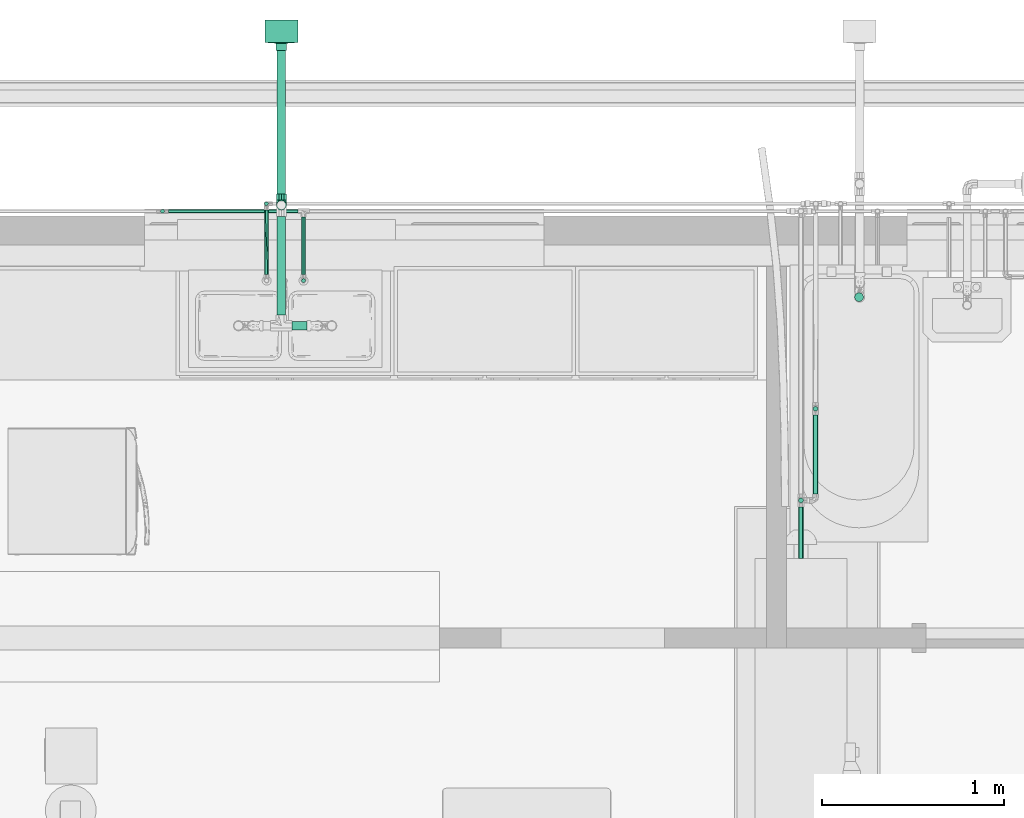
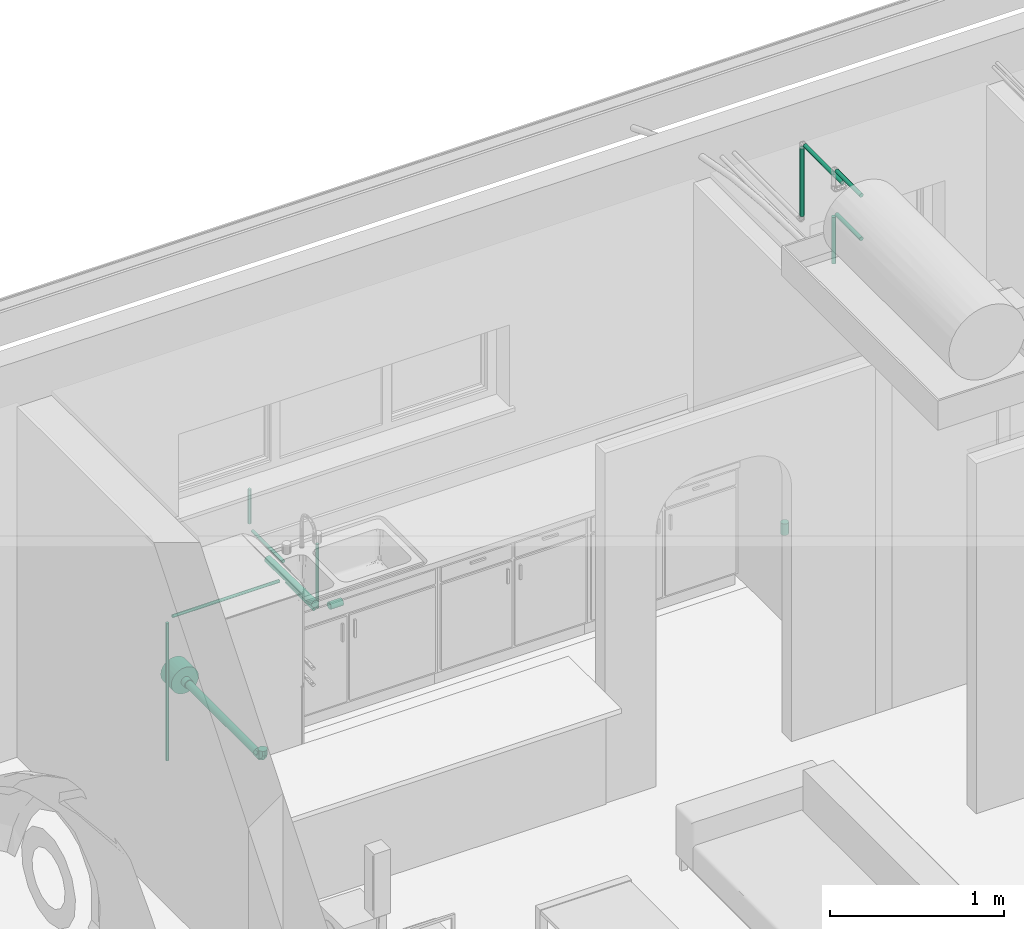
# One storey, part 18 of 41: 15 flow segments, 2 flow fittings.
"""IFC2X3 building model written with IfcOpenShell, lengths in millimetres."""

import ifcopenshell
import ifcopenshell.guid

model = None  # the IFC model being written
_history = None  # IfcOwnerHistory: only IFC2X3 demands one
_inside = {}  # id of a spatial element -> (the spatial element, [elements in it])
_under = {}  # id of a project, library or spatial element -> (it, [spatial elements below it])
_declared = {}  # id of a project -> (the project, [libraries it declares])
_typed = {}  # id of a type object -> (the type object, [elements of that type])
_made_of = {}  # id of a material, layer set ... -> (it, [elements and type objects made of it])


def new_model(schema):
    """Start an empty IFC model of exactly this schema.

    Asked for "IFC4X3", IfcOpenShell would pick the latest addendum, in which some entities
    have other attributes; the version numbers below select the first issue.
    IFC2X3 requires an IfcOwnerHistory on every rooted entity: one is made here for all.
    """
    global model, _history
    if schema == "IFC4X3":
        model = ifcopenshell.file(schema_version=(4, 3, 0, 0))
    else:
        model = ifcopenshell.file(schema=schema)
    _inside.clear()
    _under.clear()
    _declared.clear()
    _typed.clear()
    _made_of.clear()
    _history = None
    if model.schema == "IFC2X3":
        org = make("IfcOrganization", Name="unknown")
        user = make(
            "IfcPersonAndOrganization",
            ThePerson=make("IfcPerson", FamilyName="unknown"),
            TheOrganization=org,
        )
        app = make(
            "IfcApplication",
            ApplicationDeveloper=org,
            Version="unknown",
            ApplicationFullName="unknown",
            ApplicationIdentifier="unknown",
        )
        _history = make(
            "IfcOwnerHistory",
            OwningUser=user,
            OwningApplication=app,
            ChangeAction="ADDED",
            CreationDate=0,
        )
    return model


def make(cls, **values):
    """One entity of the class cls with the attributes given. An attribute that is None is left unset."""
    return model.create_entity(
        cls, **{name: value for name, value in values.items() if value is not None}
    )


def entity(cls, *values):
    """Any entity or typed value of the class cls, its attributes in the order of the schema. None: left unset."""
    e = model.create_entity(cls)
    for i, value in enumerate(values):
        if value is not None:
            e[i] = value
    return e


def rooted(cls, **values):
    """An entity with a GlobalId (a new one), such as an element, a storey or a relation."""
    return make(cls, GlobalId=ifcopenshell.guid.new(), OwnerHistory=_history, **values)


def si_unit(unit_type, name, prefix=None):
    """IfcSIUnit, for example si_unit("LENGTHUNIT", "METRE", prefix="MILLI")."""
    return make("IfcSIUnit", UnitType=unit_type, Prefix=prefix, Name=name)


def converted_unit(unit_type, name, factor, base, dimensions=None, offset=None):
    """IfcConversionBasedUnit, such as the inch: factor (a typed value) times the base unit."""
    return make(
        "IfcConversionBasedUnit"
        if offset is None
        else "IfcConversionBasedUnitWithOffset",
        ConversionOffset=offset,
        Dimensions=None
        if dimensions is None
        else entity("IfcDimensionalExponents", *dimensions),
        UnitType=unit_type,
        Name=name,
        ConversionFactor=make(
            "IfcMeasureWithUnit", ValueComponent=factor, UnitComponent=base
        ),
    )


def derived_unit(unit_type, elements):
    """IfcDerivedUnit: a product of units, each with its exponent."""
    return make(
        "IfcDerivedUnit",
        Elements=[
            make("IfcDerivedUnitElement", Unit=unit, Exponent=power)
            for unit, power in elements
        ],
        UnitType=unit_type,
    )


def assignment(units):
    """IfcUnitAssignment: the units of a project."""
    return None if units is None else make("IfcUnitAssignment", Units=units)


def point(xyz):
    """IfcCartesianPoint."""
    return None if xyz is None else make("IfcCartesianPoint", Coordinates=xyz)


def direction(xyz):
    """IfcDirection."""
    return None if xyz is None else make("IfcDirection", DirectionRatios=xyz)


def frame(location, z_axis=None, x_axis=None):
    """IfcAxis2Placement3D, a coordinate frame: its origin and axes. An axis left out is left unset."""
    return make(
        "IfcAxis2Placement3D",
        Location=point(location),
        Axis=direction(z_axis),
        RefDirection=direction(x_axis),
    )


def frame_2d(location, x_axis=None):
    """IfcAxis2Placement2D, a coordinate frame in the plane: its origin and x axis."""
    return make(
        "IfcAxis2Placement2D", Location=point(location), RefDirection=direction(x_axis)
    )


def origin():
    """The frame at (0, 0, 0) with its axes left unset."""
    return frame((0.0, 0.0, 0.0))


def origin_2d_with_axis():
    """The frame at (0, 0) in the plane with the x axis (1, 0) written out."""
    return frame_2d((0.0, 0.0), x_axis=(1.0, 0.0))


def place(relative_to, where):
    """IfcLocalPlacement: puts the frame where relative to a parent placement (None: the world)."""
    return make(
        "IfcLocalPlacement", PlacementRelTo=relative_to, RelativePlacement=where
    )


def context(
    kind, dimensions, precision=None, world=None, true_north=None, identifier=None
):
    """IfcGeometricRepresentationContext, for example the 3D "Model" context."""
    return make(
        "IfcGeometricRepresentationContext",
        ContextIdentifier=identifier,
        ContextType=kind,
        CoordinateSpaceDimension=dimensions,
        Precision=precision,
        WorldCoordinateSystem=world,
        TrueNorth=true_north,
    )


def subcontext(parent, identifier, kind, view, scale=None):
    """IfcGeometricRepresentationSubContext, for example "Body" below "Model"."""
    return make(
        "IfcGeometricRepresentationSubContext",
        ContextIdentifier=identifier,
        ContextType=kind,
        ParentContext=parent,
        TargetScale=scale,
        TargetView=view,
    )


def project(units=None, contexts=None):
    """IfcProject with its units and contexts."""
    return rooted(
        "IfcProject",
        Name="project",
        RepresentationContexts=contexts,
        UnitsInContext=assignment(units),
    )


def spatial(cls, under=None, at=None, **own):
    """A site, building, storey or space (cls), placed at a placement, below another one or the project."""
    s = rooted(cls, ObjectPlacement=at, **own)
    if under is not None:
        _under.setdefault(under.id(), (under, []))[1].append(s)
    return s


def profile(cls, at=None, kind="AREA", **sizes):
    """A parametric profile (cls). Its sizes go by their IFC names, for example OverallWidth=200.0."""
    return make(cls, ProfileType=kind, Position=at, **sizes)


def circle(**sizes):
    """IfcCircleProfileDef."""
    return profile("IfcCircleProfileDef", **sizes)


def extrude(swept, where, along, depth):
    """IfcExtrudedAreaSolid: the profile swept, set in the frame where, extruded along a direction by depth."""
    return make(
        "IfcExtrudedAreaSolid",
        SweptArea=swept,
        Position=where,
        ExtrudedDirection=direction(along),
        Depth=depth,
    )


def faces_of(points, faces, orient=None, outer=None):
    """IfcFace entities. A face is a list of loops; a loop is a list of indices into points, from 0.

    orient and outer hold one flag for each loop. By default every Orientation is true, the
    first loop of a face is its IfcFaceOuterBound and the others are IfcFaceBound.
    """
    made = []
    for i, loops in enumerate(faces):
        bounds = []
        for j, loop in enumerate(loops):
            is_outer = j == 0 if outer is None else outer[i][j]
            bounds.append(
                make(
                    "IfcFaceOuterBound" if is_outer else "IfcFaceBound",
                    Bound=make("IfcPolyLoop", Polygon=[points[k] for k in loop]),
                    Orientation=True if orient is None else orient[i][j],
                )
            )
        made.append(make("IfcFace", Bounds=bounds))
    return made


def faceted_brep(points, faces, orient=None, outer=None, voids=None):
    """IfcFacetedBrep: a solid bounded by flat faces; with voids (closed shells), ...WithVoids."""
    shared = [point(p) for p in points]
    hull = make("IfcClosedShell", CfsFaces=faces_of(shared, faces, orient, outer))
    if voids is None:
        return make("IfcFacetedBrep", Outer=hull)
    return make(
        "IfcFacetedBrepWithVoids",
        Outer=hull,
        Voids=[
            make(cls, CfsFaces=faces_of(shared, fs, o, b)) for cls, fs, o, b in voids
        ],
    )


def shape(context_of_items, identifier, shape_type, items):
    """IfcShapeRepresentation: the items that make up one representation, for example the "Body"."""
    return make(
        "IfcShapeRepresentation",
        ContextOfItems=context_of_items,
        RepresentationIdentifier=identifier,
        RepresentationType=shape_type,
        Items=items,
    )


def source(mapping_origin, context_of_items, identifier, shape_type, items):
    """IfcRepresentationMap: a shape defined once, which mapped items show again and again."""
    return make(
        "IfcRepresentationMap",
        MappingOrigin=mapping_origin,
        MappedRepresentation=shape(context_of_items, identifier, shape_type, items),
    )


def transform(
    local_origin,
    x_axis=None,
    y_axis=None,
    z_axis=None,
    scale=None,
    scale2=None,
    scale3=None,
    uniform=True,
):
    """IfcCartesianTransformationOperator3D, or its non-uniform kind. x_axis, y_axis, z_axis: its Axis1, 2, 3."""
    if uniform:
        return make(
            "IfcCartesianTransformationOperator3D",
            Axis1=direction(x_axis),
            Axis2=direction(y_axis),
            LocalOrigin=point(local_origin),
            Scale=scale,
            Axis3=direction(z_axis),
        )
    return make(
        "IfcCartesianTransformationOperator3DnonUniform",
        Axis1=direction(x_axis),
        Axis2=direction(y_axis),
        LocalOrigin=point(local_origin),
        Scale=scale,
        Axis3=direction(z_axis),
        Scale2=scale2,
        Scale3=scale3,
    )


def mapped(mapping_source, mapping_target):
    """IfcMappedItem: shows the shape of a source again, moved by a transform."""
    return make(
        "IfcMappedItem", MappingSource=mapping_source, MappingTarget=mapping_target
    )


def made_of(thing, what):
    """Note that an element or type object is made of a material, layer set ...; save() writes the relation."""
    if what is not None:
        _made_of.setdefault(what.id(), (what, []))[1].append(thing)
    return thing


def type_object(cls, material=None, **own):
    """A type object (cls), such as IfcWallType, which elements share."""
    return made_of(rooted(cls, **own), material)


def type_shapes(of_type, sources):
    """Give a type object the sources (RepresentationMaps) that its elements show as mapped items."""
    of_type.RepresentationMaps = sources


def element(
    cls,
    number,
    at=None,
    inside=None,
    cuts=None,
    type_object=None,
    material=None,
    context=None,
    identifier="Body",
    shape_type=None,
    held_by="IfcProductDefinitionShape",
    body=None,
    shapes=None,
    **own,
):
    """One element of the class cls, such as IfcWall. Its Tag is "e" and its number.

    at: its placement. inside: the storey or other place that contains it. cuts: it is an
    opening in that element (IfcRelVoidsElement). A single representation is given by context,
    identifier, shape_type and body (its items); several are given by shapes. held_by: the class
    of the entity that holds the representations. save() writes the other relations.
    """
    e = rooted(cls, Tag="e%d" % number, ObjectPlacement=at, **own)
    if body is not None:
        shapes = [shape(context, identifier, shape_type, body)]
    if shapes is not None:
        e.Representation = make(held_by, Representations=shapes)
    if inside is not None:
        _inside.setdefault(inside.id(), (inside, []))[1].append(e)
    if cuts is not None:
        rooted(
            "IfcRelVoidsElement", RelatingBuildingElement=cuts, RelatedOpeningElement=e
        )
    if type_object is not None:
        _typed.setdefault(type_object.id(), (type_object, []))[1].append(e)
    return made_of(e, material)


def aggregate(whole, parts):
    """IfcRelAggregates: a whole, such as a stair, and the parts it consists of."""
    return rooted("IfcRelAggregates", RelatingObject=whole, RelatedObjects=parts)


def save(model, path):
    """Write the relations noted so far, then the file.

    IfcRelAggregates (storeys below a building ...), IfcRelContainedInSpatialStructure (elements
    in a storey), IfcRelDefinesByType, IfcRelAssociatesMaterial and IfcRelDeclares: one each for
    every whole, place, type object, material and project.
    """
    for whole, parts in _under.values():
        aggregate(whole, parts)
    for where, things in _inside.values():
        rooted(
            "IfcRelContainedInSpatialStructure",
            RelatedElements=things,
            RelatingStructure=where,
        )
    for kind, things in _typed.values():
        rooted("IfcRelDefinesByType", RelatedObjects=things, RelatingType=kind)
    for what, things in _made_of.values():
        rooted("IfcRelAssociatesMaterial", RelatedObjects=things, RelatingMaterial=what)
    for by, libraries in _declared.values():
        rooted("IfcRelDeclares", RelatingContext=by, RelatedDefinitions=libraries)
    model.write(path)


model = new_model("IFC2X3")

# Units and contexts
model_context = context("Model", 3, precision=0.01, world=origin(), true_north=direction((6.12303176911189e-17, 1.0)))
body_context = subcontext(model_context, "Body", "Model", "MODEL_VIEW")
ifc_project = project(units=[si_unit("LENGTHUNIT", "METRE", prefix="MILLI"), si_unit("AREAUNIT", "SQUARE_METRE"), si_unit("VOLUMEUNIT", "CUBIC_METRE"), converted_unit("PLANEANGLEUNIT", "DEGREE", entity("IfcRatioMeasure", 0.0174532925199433), si_unit("PLANEANGLEUNIT", "RADIAN"), dimensions=[0, 0, 0, 0, 0, 0, 0]), si_unit("MASSUNIT", "GRAM", prefix="KILO"), derived_unit("MASSDENSITYUNIT", [(si_unit("MASSUNIT", "GRAM", prefix="KILO"), 1), (si_unit("LENGTHUNIT", "METRE"), -3)]), si_unit("TIMEUNIT", "SECOND"), si_unit("FREQUENCYUNIT", "HERTZ"), si_unit("THERMODYNAMICTEMPERATUREUNIT", "DEGREE_CELSIUS"), derived_unit("THERMALTRANSMITTANCEUNIT", [(si_unit("MASSUNIT", "GRAM", prefix="KILO"), 1), (si_unit("THERMODYNAMICTEMPERATUREUNIT", "KELVIN"), -1), (si_unit("TIMEUNIT", "SECOND"), -3)]), derived_unit("VOLUMETRICFLOWRATEUNIT", [(si_unit("LENGTHUNIT", "METRE"), 3), (si_unit("TIMEUNIT", "SECOND"), -1)]), si_unit("ELECTRICCURRENTUNIT", "AMPERE"), si_unit("ELECTRICVOLTAGEUNIT", "VOLT"), si_unit("POWERUNIT", "WATT"), si_unit("FORCEUNIT", "NEWTON", prefix="KILO"), si_unit("ILLUMINANCEUNIT", "LUX"), si_unit("LUMINOUSFLUXUNIT", "LUMEN"), si_unit("LUMINOUSINTENSITYUNIT", "CANDELA"), derived_unit("USERDEFINED", [(si_unit("MASSUNIT", "GRAM", prefix="KILO"), -1), (si_unit("LENGTHUNIT", "METRE"), -2), (si_unit("TIMEUNIT", "SECOND"), 3), (si_unit("LUMINOUSFLUXUNIT", "LUMEN"), 1)]), derived_unit("LINEARVELOCITYUNIT", [(si_unit("LENGTHUNIT", "METRE"), 1), (si_unit("TIMEUNIT", "SECOND"), -1)]), si_unit("PRESSUREUNIT", "PASCAL"), derived_unit("USERDEFINED", [(si_unit("LENGTHUNIT", "METRE"), -2), (si_unit("MASSUNIT", "GRAM", prefix="KILO"), 1), (si_unit("TIMEUNIT", "SECOND"), -2)])], contexts=[model_context])

# Site, building, storey
site_placement = place(None, origin())
site = spatial("IfcSite", under=ifc_project, at=site_placement, Name="Surface", CompositionType="ELEMENT")
building_placement = place(site_placement, origin())
building = spatial("IfcBuilding", under=site, at=building_placement, CompositionType="ELEMENT")
storey_placement = place(building_placement, frame((0.0, 0.0, 300.0)))
storey = spatial("IfcBuildingStorey", under=building, at=storey_placement, Name="F.F.L", CompositionType="ELEMENT", Elevation=300.0)

# Flow segments
pipe_segment_type = type_object("IfcPipeSegmentType", Name="Pipe Types:PVC80", PredefinedType="NOTDEFINED")
flow_segment_1_placement = place(storey_placement, origin())
element("IfcFlowSegment", 1, at=flow_segment_1_placement, inside=storey, type_object=pipe_segment_type, Name="Pipe Types:PVC80", ObjectType="Pipe Types:PVC80", context=body_context, shape_type="SweptSolid", body=[
    extrude(circle(Radius=24.13, at=origin_2d_with_axis()), frame((-4076.87517007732, 10378.0400891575, -76.464466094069)), (0.0, 0.0, 1.0), 80.0),
])
flow_segment_2_placement = place(storey_placement, origin())
element("IfcFlowSegment", 2, at=flow_segment_2_placement, inside=storey, type_object=pipe_segment_type, Name="Pipe Types:PVC80", ObjectType="Pipe Types:PVC80", context=body_context, shape_type="SweptSolid", body=[
    extrude(circle(Radius=13.335, at=origin_2d_with_axis()), frame((-4396.87517007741, 8938.84008915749, 2978.8), z_axis=(0.0, 1.0, 0.0), x_axis=(1.0, 0.0, 0.0)), (0.0, 0.0, 1.0), 284.67494673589),
])
flow_segment_3_placement = place(storey_placement, origin())
element("IfcFlowSegment", 3, at=flow_segment_3_placement, inside=storey, type_object=pipe_segment_type, Name="Pipe Types:PVC80", ObjectType="Pipe Types:PVC80", context=body_context, shape_type="SweptSolid", body=[
    extrude(circle(Radius=13.335, at=origin_2d_with_axis()), frame((-4396.87517007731, 8938.84008915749, 3283.59999999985), z_axis=(0.0, 0.99999999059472, 0.000137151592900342), x_axis=(1.0, 0.0, 0.0)), (0.0, 0.0, 1.0), 284.672432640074),
])
flow_segment_4_placement = place(storey_placement, origin())
element("IfcFlowSegment", 4, at=flow_segment_4_placement, inside=storey, type_object=pipe_segment_type, Name="Pipe Types:PVC80", ObjectType="Pipe Types:PVC80", context=body_context, shape_type="SweptSolid", body=[
    extrude(circle(Radius=10.668, at=origin_2d_with_axis()), frame((-7135.27517007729, 10468.6900891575, 416.937550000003)), (0.0, 0.0, 1.0), 448.062449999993),
])
flow_segment_5_placement = place(storey_placement, origin())
element("IfcFlowSegment", 5, at=flow_segment_5_placement, inside=storey, type_object=pipe_segment_type, Name="Pipe Types:PVC80", ObjectType="Pipe Types:PVC80", context=body_context, shape_type="SweptSolid", body=[
    extrude(circle(Radius=10.668, at=origin_2d_with_axis()), frame((-7135.27517007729, 10502.4276391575, 383.200000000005), z_axis=(0.0, 1.0, 0.0), x_axis=(1.0, 0.0, 0.0)), (0.0, 0.0, 1.0), 316.662449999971),
])
flow_segment_6_placement = place(storey_placement, origin())
element("IfcFlowSegment", 6, at=flow_segment_6_placement, inside=storey, type_object=pipe_segment_type, Name="Pipe Types:PVC80", ObjectType="Pipe Types:PVC80", context=body_context, shape_type="SweptSolid", body=[
    extrude(circle(Radius=10.668, at=frame_2d((3.24860138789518e-11, 0.0), x_axis=(1.0, 0.0))), frame((-7878.00431599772, 10850.8400891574, 383.200000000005), z_axis=(1.0, 0.0, 0.0), x_axis=(0.0, 1.0, 0.0)), (0.0, 0.0, 1.0), 710.97914592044),
])
flow_segment_7_placement = place(storey_placement, origin())
element("IfcFlowSegment", 7, at=flow_segment_7_placement, inside=storey, type_object=pipe_segment_type, Name="Pipe Types:PVC80", ObjectType="Pipe Types:PVC80", context=body_context, shape_type="SweptSolid", body=[
    extrude(circle(Radius=10.668, at=frame_2d((-1.08286712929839e-12, 0.0), x_axis=(1.0, 0.0))), frame((-7339.93915842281, 10892.2567375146, 824.137549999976), z_axis=(0.0, 0.0, 1.0), x_axis=(-1.0, 0.0, 0.0)), (0.0, 0.0, 1.0), 242.124900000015),
])
flow_segment_8_placement = place(storey_placement, origin())
element("IfcFlowSegment", 8, at=flow_segment_8_placement, inside=storey, type_object=pipe_segment_type, Name="Pipe Types:PVC80", ObjectType="Pipe Types:PVC80", context=body_context, shape_type="SweptSolid", body=[
    extrude(circle(Radius=24.13, at=origin_2d_with_axis()), frame((-7198.67072415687, 10220.2400891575, 601.606074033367), z_axis=(1.0, 0.0, 0.0), x_axis=(0.0, -1.0, 0.0)), (0.0, 0.0, 1.0), 83.5957540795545),
])
flow_segment_9_placement = place(storey_placement, origin())
element("IfcFlowSegment", 9, at=flow_segment_9_placement, inside=storey, type_object=pipe_segment_type, Name="Pipe Types:PVC80", ObjectType="Pipe Types:PVC80", context=body_context, shape_type="SweptSolid", body=[
    extrude(circle(Radius=24.13, at=origin_2d_with_axis()), frame((-7257.42092415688, 10822.2648359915, 584.889870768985), z_axis=(0.0, -0.999621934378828, 0.0274952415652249), x_axis=(1.0, 0.0, 0.0)), (0.0, 0.0, 1.0), 543.506767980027),
])
flow_segment_10_placement = place(storey_placement, origin())
element("IfcFlowSegment", 10, at=flow_segment_10_placement, inside=storey, type_object=pipe_segment_type, Name="Pipe Types:PVC80", ObjectType="Pipe Types:PVC80", context=body_context, shape_type="SweptSolid", body=[
    extrude(circle(Radius=24.13, at=origin_2d_with_axis()), frame((-7257.42092415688, 10946.8826265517, -848.63376576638), z_axis=(0.0, 1.0, 0.0), x_axis=(1.0, 0.0, 0.0)), (0.0, 0.0, 1.0), 787.843090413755),
])
flow_segment_11_placement = place(storey_placement, origin())
element("IfcFlowSegment", 11, at=flow_segment_11_placement, inside=storey, type_object=pipe_segment_type, Name="Pipe Types:PVC80", ObjectType="Pipe Types:PVC80", context=body_context, shape_type="SweptSolid", body=[
    extrude(circle(Radius=10.668, at=origin_2d_with_axis()), frame((-7911.74186599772, 10850.8400891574, -616.262450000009)), (0.0, 0.0, 1.0), 965.724900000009),
])
flow_segment_12_placement = place(storey_placement, origin())
element("IfcFlowSegment", 12, at=flow_segment_12_placement, inside=storey, type_object=pipe_segment_type, Name="Pipe Types:PVC80", ObjectType="Pipe Types:PVC80", context=body_context, shape_type="SweptSolid", body=[
    extrude(circle(Radius=13.335, at=origin_2d_with_axis()), frame((-4316.5225398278, 9294.16666066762, 3128.66595107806), z_axis=(-1.89759557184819e-05, 1.0, 0.0), x_axis=(-1.0, -1.89759557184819e-05, 0.0)), (0.0, 0.0, 1.0), 433.392948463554),
])
flow_segment_13_placement = place(storey_placement, origin())
element("IfcFlowSegment", 13, at=flow_segment_13_placement, inside=storey, type_object=pipe_segment_type, Name="Pipe Types:PVC80", ObjectType="Pipe Types:PVC80", context=body_context, shape_type="SweptSolid", body=[
    extrude(circle(Radius=13.335, at=origin_2d_with_axis()), frame((-4316.52186947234, 9762.88465793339, 2615.32505)), (0.0, 0.0, 1.0), 478.015851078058),
])
flow_segment_14_placement = place(storey_placement, origin())
element("IfcFlowSegment", 14, at=flow_segment_14_placement, inside=storey, type_object=pipe_segment_type, Name="Pipe Types:PVC80", ObjectType="Pipe Types:PVC80", context=body_context, shape_type="SweptSolid", body=[
    extrude(circle(Radius=13.335, at=origin_2d_with_axis()), frame((-4396.87517007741, 9258.84008589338, 2615.32505)), (0.0, 0.0, 1.0), 328.149900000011),
])
flow_segment_15_placement = place(storey_placement, origin())
element("IfcFlowSegment", 15, at=flow_segment_15_placement, inside=storey, type_object=pipe_segment_type, Name="Pipe Types:PVC80", ObjectType="Pipe Types:PVC80", context=body_context, shape_type="SweptSolid", body=[
    extrude(circle(Radius=10.668, at=origin_2d_with_axis()), frame((-7339.82122261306, 10858.5193936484, 790.399999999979), z_axis=(0.00349568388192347, -0.999993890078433, 0.0), x_axis=(0.999993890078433, 0.00349568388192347, 0.0)), (0.0, 0.0, 1.0), 356.094082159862),
])

# Flow fittings
pipe_fitting_type_1 = type_object("IfcPipeFittingType", Name="Standard", PredefinedType="NOTDEFINED")
shared_shape_1 = source(origin(), body_context, "Body", "Brep", [
    faceted_brep([(-62.7189499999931, 7.39575421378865, -27.601330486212), (-62.7189499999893, -7.39575421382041, -27.601330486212), (-62.7189499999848, -24.7466759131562, -14.2875000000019), (-62.7189499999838, -28.5750000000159, 0.0), (-62.7189499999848, -24.7466759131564, 14.2874999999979), (-62.7189499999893, -7.39575421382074, 27.6013304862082), (-62.7189499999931, 7.3957542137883, 27.6013304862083), (-62.7189499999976, 24.7466759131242, 14.2874999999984), (-62.7189499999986, 28.5749999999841, 0.0), (-62.7189499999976, 24.7466759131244, -14.2875000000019), (-29.3687499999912, -28.5750000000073, 0.0), (-29.3687499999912, -24.7466759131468, 14.2874999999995), (-29.3687499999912, -7.39575421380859, 27.6013304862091), (-29.3687499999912, 7.39575421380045, 27.6013304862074), (7.39575421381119, 62.7189499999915, 27.6013304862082), (-7.39575421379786, 62.7189499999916, 27.6013304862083), (-7.39575421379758, 29.3687499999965, 27.6013304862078), (7.39575421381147, 29.3687499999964, 27.6013304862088), (-29.3687499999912, 24.7466759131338, 14.2874999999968), (-29.3687499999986, 28.5749999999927, 0.0), (-29.3687499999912, 24.746675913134, -14.2875000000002), (-29.3687499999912, 7.39575421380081, -27.601330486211), (-29.3687499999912, -7.39575421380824, -27.601330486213), (-7.3957542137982, 62.7189499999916, -27.601330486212), (7.39575421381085, 62.7189499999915, -27.601330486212), (7.39575421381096, 29.3687499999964, -27.6013304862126), (-7.39575421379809, 29.3687499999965, -27.6013304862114), (-29.3687499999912, -24.7466759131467, -14.2875000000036), (-1.06812941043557, 1.06812639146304, 26.5144290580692), (-10.2513697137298, -18.4571125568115, 18.0695174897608), (-3.64221065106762, -17.9187184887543, 0.0), (11.6036685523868, -11.6036685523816, 0.0), (18.4571116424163, 10.2513668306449, 18.0695172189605), (-28.8074839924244, 28.8074839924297, 0.0), (-24.7466759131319, 29.3687499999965, 14.2874999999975), (-16.9756319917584, 16.9756316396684, 26.0056169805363), (17.9187181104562, 3.64220973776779, 0.0), (28.5750000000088, 29.3687499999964, 0.0), (24.7466759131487, 29.3687499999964, 14.2874999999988), (-28.5749999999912, 29.3687499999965, 0.0), (-10.2513695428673, -18.4571125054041, -18.0695174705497), (-16.9756316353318, 16.9756313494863, -26.005617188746), (-24.7466759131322, 29.3687499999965, -14.2875000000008), (-1.06812831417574, 1.06812596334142, -26.5144286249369), (18.4571113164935, 10.2513669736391, -18.0695176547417), (24.7466759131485, 29.3687499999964, -14.287500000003), (24.7466759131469, 62.7189499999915, 14.2874999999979), (28.5750000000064, 62.7189499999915, 0.0), (24.7466759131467, 62.7189499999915, -14.2875000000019), (-24.746675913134, 62.7189499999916, -14.2875000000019), (-28.5749999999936, 62.7189499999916, 0.0), (-24.7466759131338, 62.7189499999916, 14.2874999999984)], [[[0, 1, 2, 3, 4, 5, 6, 7, 8, 9]], [[3, 10, 11, 4]], [[4, 11, 12, 5]], [[12, 13, 6, 5]], [[14, 15, 16, 17]], [[6, 13, 18, 7]], [[7, 18, 19, 8]], [[8, 19, 20, 9]], [[9, 20, 21, 0]], [[21, 22, 1, 0]], [[23, 24, 25, 26]], [[1, 22, 27, 2]], [[2, 27, 10, 3]], [[12, 28, 13]], [[29, 11, 30]], [[31, 29, 30]], [[17, 28, 32]], [[29, 12, 11]], [[33, 18, 34]], [[31, 32, 28]], [[33, 19, 18]], [[18, 13, 35]], [[11, 10, 30]], [[28, 29, 31]], [[36, 37, 38]], [[28, 35, 13]], [[28, 12, 29]], [[32, 36, 38]], [[18, 35, 34]], [[33, 34, 39]], [[32, 38, 17]], [[34, 35, 16]], [[28, 16, 35]], [[32, 31, 36]], [[16, 28, 17]], [[40, 31, 30]], [[40, 27, 22]], [[41, 20, 42]], [[41, 43, 21]], [[10, 27, 30]], [[43, 25, 44]], [[27, 40, 30]], [[43, 22, 21]], [[31, 40, 43]], [[43, 41, 26]], [[20, 19, 33]], [[33, 39, 42]], [[31, 44, 36]], [[22, 43, 40]], [[42, 26, 41]], [[45, 36, 44]], [[45, 37, 36]], [[31, 43, 44]], [[20, 41, 21]], [[44, 25, 45]], [[26, 25, 43]], [[42, 20, 33]], [[46, 47, 48, 24, 23, 49, 50, 51, 15, 14]], [[37, 47, 46, 38]], [[38, 46, 14, 17]], [[16, 15, 51, 34]], [[34, 51, 50, 39]], [[39, 50, 49, 42]], [[42, 49, 23, 26]], [[25, 24, 48, 45]], [[45, 48, 47, 37]]]),
])
type_shapes(pipe_fitting_type_1, [shared_shape_1])
flow_fitting_1_placement = place(storey_placement, frame((-7257.42092415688, 10884.1636765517, -848.633765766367), z_axis=(1.0, 0.0, 0.0), x_axis=(0.0, 0.0, -1.0)))
element("IfcFlowFitting", 16, at=flow_fitting_1_placement, inside=storey, type_object=pipe_fitting_type_1, Name="M_Elbow - PVC - Sch 40:Standard", ObjectType="Standard", context=body_context, shape_type="MappedRepresentation", body=[
    mapped(shared_shape_1, transform((0.0, 0.0, 0.0), scale=1.0)),
])
pipe_fitting_type_2 = type_object("IfcPipeFittingType", Name="Standard", PredefinedType="NOTDEFINED")
shared_shape_2 = source(origin(), body_context, "Body", "Brep", [
    faceted_brep([(128.535937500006, 29.3949218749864, 0.0), (128.535937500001, 26.5879566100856, 8.63895078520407), (128.535937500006, 23.7809913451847, 17.277901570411), (128.535937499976, 16.4322608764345, 22.6170667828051), (128.535937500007, 9.08353040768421, 27.9562319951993), (128.53593749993, 0.0, 27.9562319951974), (128.535937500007, -9.08353040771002, 27.9562319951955), (128.53593749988, -16.4322608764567, 22.6170667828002), (128.535937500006, -23.7809913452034, 17.277901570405), (128.535937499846, -26.587956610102, 8.63895078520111), (128.535937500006, -29.3949218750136, 0.0), (128.535937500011, -26.5879566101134, -8.63895078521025), (128.535937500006, -23.7809913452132, -17.2779015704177), (128.535937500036, -16.4322608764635, -22.6170667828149), (128.535937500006, -9.08353040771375, -27.9562319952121), (128.535937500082, 0.0, -27.9562319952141), (128.535937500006, 9.08353040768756, -27.956231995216), (128.535937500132, 16.4322608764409, -22.61706678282), (128.535937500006, 23.7809913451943, -17.277901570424), (128.535937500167, 26.5879566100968, -8.63895078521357), (123.921875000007, 15.8011023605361, 89.6125045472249), (123.921875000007, 45.4974609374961, 78.8039139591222), (123.921875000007, 69.7061542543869, 58.4904083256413), (123.921875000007, 85.5072566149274, 31.1220962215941), (123.921875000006, 90.9949218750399, 0.0), (123.921875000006, 85.5072566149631, -31.1220962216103), (123.921875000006, 69.7061542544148, -58.490408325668), (123.921875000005, 45.4974609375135, -78.803913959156), (123.921875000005, 15.8011023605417, -89.6125045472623), (123.921875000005, -15.8011023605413, -89.6125045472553), (123.921875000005, -45.4974609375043, -78.8039139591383), (123.921875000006, -69.706154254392, -58.4904083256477), (123.921875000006, -85.5072566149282, -31.1220962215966), (123.921875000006, -90.9949218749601, 0.0), (123.921875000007, -85.5072566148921, 31.1220962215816), (123.921875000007, -69.7061542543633, 58.4904083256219), (123.921875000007, -45.4974609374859, 78.803913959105), (123.921875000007, -15.8011023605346, 89.6125045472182)], [[[0, 1, 2, 3, 4, 5, 6, 7, 8, 9, 10, 11, 12, 13, 14, 15, 16, 17, 18, 19]], [[20, 21, 22, 23, 24, 25, 26, 27, 28, 29, 30, 31, 32, 33, 34, 35, 36, 37]], [[24, 19, 25]], [[26, 17, 27]], [[28, 16, 15, 14, 29]], [[28, 27, 16]], [[17, 26, 18]], [[26, 25, 18]], [[30, 14, 13]], [[17, 16, 27]], [[14, 30, 29]], [[12, 31, 13]], [[31, 30, 13]], [[10, 33, 11]], [[19, 18, 25]], [[19, 24, 0]], [[32, 12, 11]], [[32, 31, 12]], [[11, 33, 32]], [[33, 9, 34]], [[35, 7, 36]], [[37, 6, 5, 4, 20]], [[37, 36, 6]], [[7, 35, 8]], [[35, 34, 8]], [[21, 4, 3]], [[7, 6, 36]], [[4, 21, 20]], [[2, 22, 3]], [[22, 21, 3]], [[0, 24, 1]], [[9, 8, 34]], [[9, 33, 10]], [[23, 2, 1]], [[23, 22, 2]], [[1, 24, 23]]]),
    faceted_brep([(168.857812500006, 0.0, -29.3949218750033), (168.857812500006, 7.60796561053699, -28.3933142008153), (168.857812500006, 14.6974609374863, -25.4567490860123), (168.857812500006, 20.7853485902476, -20.7853485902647), (168.857812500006, 25.4567490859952, -14.6974609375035), (168.857812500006, 28.3933142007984, -7.60796561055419), (168.857812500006, 29.3949218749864, 0.0), (168.857812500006, 28.3933142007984, 7.60796561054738), (168.857812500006, 25.4567490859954, 14.6974609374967), (168.857812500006, 20.7853485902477, 20.785348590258), (168.857812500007, 14.6974609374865, 25.4567490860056), (168.857812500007, 7.60796561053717, 28.3933142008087), (168.857812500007, 0.0, 29.3949218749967), (168.857812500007, -7.60796561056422, 28.3933142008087), (168.857812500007, -14.6974609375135, 25.4567490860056), (168.857812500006, -20.7853485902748, 20.785348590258), (168.857812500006, -25.4567490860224, 14.6974609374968), (168.857812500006, -28.3933142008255, 7.60796561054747), (168.857812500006, -29.3949218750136, 0.0), (168.857812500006, -28.3933142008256, -7.60796561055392), (168.857812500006, -25.4567490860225, -14.6974609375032), (168.857812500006, -20.7853485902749, -20.7853485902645), (168.857812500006, -14.6974609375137, -25.4567490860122), (168.857812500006, -7.60796561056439, -28.3933142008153), (128.535937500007, 0.0, 29.3949218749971), (128.535937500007, 7.60796561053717, 28.3933142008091), (128.535937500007, 14.6974609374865, 25.456749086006), (128.535937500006, 20.7853485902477, 20.7853485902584), (128.535937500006, 25.4567490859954, 14.6974609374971), (128.535937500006, 28.3933142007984, 7.60796561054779), (128.535937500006, 29.3949218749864, 0.0), (128.535937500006, 28.3933142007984, -7.60796561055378), (128.535937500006, 25.4567490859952, -14.6974609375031), (128.535937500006, 20.7853485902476, -20.7853485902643), (128.535937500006, 14.6974609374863, -25.4567490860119), (128.535937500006, 7.60796561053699, -28.3933142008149), (128.535937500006, 0.0, -29.3949218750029), (128.535937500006, -7.60796561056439, -28.3933142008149), (128.535937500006, -14.6974609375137, -25.4567490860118), (128.535937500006, -20.7853485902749, -20.7853485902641), (128.535937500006, -25.4567490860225, -14.6974609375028), (128.535937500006, -28.3933142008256, -7.6079656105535), (128.535937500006, -29.3949218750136, 0.0), (128.535937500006, -28.3933142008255, 7.60796561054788), (128.535937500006, -25.4567490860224, 14.6974609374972), (128.535937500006, -20.7853485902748, 20.7853485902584), (128.535937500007, -14.6974609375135, 25.456749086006), (128.535937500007, -7.60796561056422, 28.3933142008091)], [[[0, 1, 2, 3, 4, 5, 6, 7, 8, 9, 10, 11, 12, 13, 14, 15, 16, 17, 18, 19, 20, 21, 22, 23]], [[24, 25, 26, 27, 28, 29, 30, 31, 32, 33, 34, 35, 36, 37, 38, 39, 40, 41, 42, 43, 44, 45, 46, 47]], [[19, 18, 42, 41]], [[20, 19, 41, 40]], [[22, 38, 37, 23]], [[36, 0, 23, 37]], [[39, 21, 20, 40]], [[39, 38, 22, 21]], [[1, 35, 34, 2]], [[33, 3, 2, 34]], [[4, 32, 31, 5]], [[33, 32, 4, 3]], [[5, 31, 30, 6]], [[35, 1, 0, 36]], [[29, 7, 6, 30]], [[28, 8, 7, 29]], [[28, 27, 9, 8]], [[27, 26, 10, 9]], [[25, 11, 10, 26]], [[12, 11, 25, 24]], [[13, 47, 46, 14]], [[45, 15, 14, 46]], [[16, 44, 43, 17]], [[45, 44, 16, 15]], [[17, 43, 42, 18]], [[47, 13, 12, 24]]]),
    faceted_brep([(123.921875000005, 45.4974609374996, -78.8039139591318), (123.921875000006, 64.3431263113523, -64.3431263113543), (123.921875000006, 78.8039139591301, -45.4974609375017), (123.921875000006, 87.8943451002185, -23.5512187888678), (123.921875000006, 90.994921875, 0.0), (123.921875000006, 87.8943451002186, 23.5512187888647), (123.921875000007, 78.8039139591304, 45.4974609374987), (123.921875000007, 64.3431263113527, 64.3431263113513), (123.921875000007, 45.4974609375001, 78.803913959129), (123.921875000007, 23.5512187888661, 87.8943451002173), (123.921875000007, 0.0, 90.9949218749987), (123.921875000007, -23.5512187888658, 87.8943451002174), (123.921875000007, -45.4974609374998, 78.8039139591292), (123.921875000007, -64.3431263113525, 64.3431263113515), (123.921875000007, -78.8039139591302, 45.4974609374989), (123.921875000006, -87.8943451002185, 23.551218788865), (123.921875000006, -90.994921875, 0.0), (123.921875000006, -87.8943451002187, -23.5512187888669), (123.921875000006, -78.8039139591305, -45.497460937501), (123.921875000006, -64.3431263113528, -64.3431263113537), (123.921875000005, -45.4974609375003, -78.8039139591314), (123.921875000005, -23.5512187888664, -87.8943451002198), (123.921875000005, 0.0, -90.9949218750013), (123.921875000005, 23.5512187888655, -87.89434510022), (0.0, 0.0, 90.994921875), (0.0, 23.5512187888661, 87.8943451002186), (0.0, 45.4974609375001, 78.8039139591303), (0.0, 64.3431263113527, 64.3431263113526), (0.0, 78.8039139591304, 45.4974609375), (0.0, 87.8943451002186, 23.551218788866), (0.0, 90.994921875, 0.0), (0.0, 87.8943451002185, -23.5512187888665), (0.0, 78.8039139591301, -45.4974609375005), (0.0, 64.3431263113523, -64.343126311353), (0.0, 45.4974609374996, -78.8039139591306), (0.0, 23.5512187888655, -87.8943451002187), (0.0, 0.0, -90.994921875), (0.0, -23.5512187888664, -87.8943451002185), (0.0, -45.4974609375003, -78.8039139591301), (0.0, -64.3431263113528, -64.3431263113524), (0.0, -78.8039139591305, -45.4974609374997), (0.0, -87.8943451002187, -23.5512187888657), (0.0, -90.994921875, 0.0), (0.0, -87.8943451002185, 23.5512187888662), (0.0, -78.8039139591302, 45.4974609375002), (0.0, -64.3431263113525, 64.3431263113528), (0.0, -45.4974609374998, 78.8039139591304), (0.0, -23.5512187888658, 87.8943451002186)], [[[0, 1, 2, 3, 4, 5, 6, 7, 8, 9, 10, 11, 12, 13, 14, 15, 16, 17, 18, 19, 20, 21, 22, 23]], [[24, 25, 26, 27, 28, 29, 30, 31, 32, 33, 34, 35, 36, 37, 38, 39, 40, 41, 42, 43, 44, 45, 46, 47]], [[17, 41, 40, 18]], [[39, 19, 18, 40]], [[20, 38, 37, 21]], [[39, 38, 20, 19]], [[21, 37, 36, 22]], [[41, 17, 16, 42]], [[23, 35, 34, 0]], [[33, 1, 0, 34]], [[2, 32, 31, 3]], [[33, 32, 2, 1]], [[3, 31, 30, 4]], [[35, 23, 22, 36]], [[5, 4, 30, 29]], [[6, 5, 29, 28]], [[8, 26, 25, 9]], [[9, 25, 24, 10]], [[27, 7, 6, 28]], [[27, 26, 8, 7]], [[11, 47, 46, 12]], [[45, 13, 12, 46]], [[14, 44, 43, 15]], [[45, 44, 14, 13]], [[15, 43, 42, 16]], [[47, 11, 10, 24]]]),
])
type_shapes(pipe_fitting_type_2, [shared_shape_2])
flow_fitting_2_placement = place(storey_placement, frame((-7257.42092415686, 11903.5835294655, -848.633765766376), z_axis=(-0.0199960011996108, 0.0, 0.999800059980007), x_axis=(0.0, -1.0, 0.0)))
element("IfcFlowFitting", 17, at=flow_fitting_2_placement, inside=storey, type_object=pipe_fitting_type_2, Name="M_Coupling Reducing - PVC - Sch 40:Standard", ObjectType="Standard", context=body_context, shape_type="MappedRepresentation", body=[
    mapped(shared_shape_2, transform((0.0, 0.0, 0.0), scale=1.0)),
])

save(model, "model.ifc")
